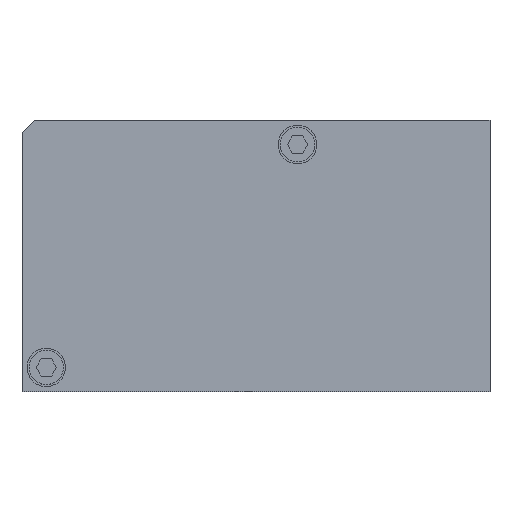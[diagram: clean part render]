
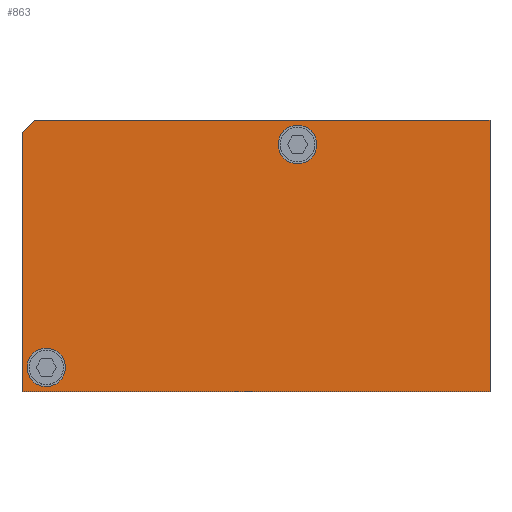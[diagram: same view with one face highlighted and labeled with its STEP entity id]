
A CAD part, top view. The second image highlights one B-rep face of the part: STEP entity #863.
In plain terms, the highlighted planar face has unit normal (0, 0, 1).
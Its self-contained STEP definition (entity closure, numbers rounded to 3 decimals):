
#119=DIRECTION('',(1.,0.,0.));
#120=VECTOR('',#119,115.5);
#121=CARTESIAN_POINT('',(-57.75,-33.5,12.5));
#122=LINE('',#121,#120);
#123=DIRECTION('',(0.,-1.,0.));
#124=VECTOR('',#123,64.);
#125=CARTESIAN_POINT('',(-57.75,30.5,12.5));
#126=LINE('',#125,#124);
#127=DIRECTION('',(-0.707,-0.707,0.));
#128=VECTOR('',#127,4.243);
#129=CARTESIAN_POINT('',(-54.75,33.5,12.5));
#130=LINE('',#129,#128);
#131=DIRECTION('',(-1.,0.,0.));
#132=VECTOR('',#131,112.5);
#133=CARTESIAN_POINT('',(57.75,33.5,12.5));
#134=LINE('',#133,#132);
#135=DIRECTION('',(0.,1.,0.));
#136=VECTOR('',#135,67.);
#137=CARTESIAN_POINT('',(57.75,-33.5,12.5));
#138=LINE('',#137,#136);
#139=CARTESIAN_POINT('',(-51.75,-27.5,12.5));
#140=DIRECTION('',(0.,0.,1.));
#141=DIRECTION('',(1.,0.,0.));
#142=AXIS2_PLACEMENT_3D('',#139,#140,#141);
#144=CARTESIAN_POINT('',(-51.75,-27.5,12.5));
#145=DIRECTION('',(0.,0.,1.));
#146=DIRECTION('',(-1.,0.,0.));
#147=AXIS2_PLACEMENT_3D('',#144,#145,#146);
#149=CARTESIAN_POINT('',(10.25,27.5,12.5));
#150=DIRECTION('',(0.,0.,1.));
#151=DIRECTION('',(1.,0.,0.));
#152=AXIS2_PLACEMENT_3D('',#149,#150,#151);
#154=CARTESIAN_POINT('',(10.25,27.5,12.5));
#155=DIRECTION('',(0.,0.,1.));
#156=DIRECTION('',(-1.,0.,0.));
#157=AXIS2_PLACEMENT_3D('',#154,#155,#156);
#567=CARTESIAN_POINT('',(-57.75,-33.5,12.5));
#568=CARTESIAN_POINT('',(57.75,-33.5,12.5));
#569=VERTEX_POINT('',#567);
#570=VERTEX_POINT('',#568);
#571=CARTESIAN_POINT('',(57.75,33.5,12.5));
#572=VERTEX_POINT('',#571);
#573=CARTESIAN_POINT('',(-54.75,33.5,12.5));
#574=VERTEX_POINT('',#573);
#575=CARTESIAN_POINT('',(-57.75,30.5,12.5));
#576=VERTEX_POINT('',#575);
#585=CARTESIAN_POINT('',(-47.,-27.5,12.5));
#586=CARTESIAN_POINT('',(-56.5,-27.5,12.5));
#587=VERTEX_POINT('',#585);
#588=VERTEX_POINT('',#586);
#589=CARTESIAN_POINT('',(15.,27.5,12.5));
#590=CARTESIAN_POINT('',(5.5,27.5,12.5));
#591=VERTEX_POINT('',#589);
#592=VERTEX_POINT('',#590);
#839=CARTESIAN_POINT('',(0.,0.,12.5));
#840=DIRECTION('',(0.,0.,1.));
#841=DIRECTION('',(1.,0.,0.));
#842=AXIS2_PLACEMENT_3D('',#839,#840,#841);
#843=PLANE('',#842);
#844=ORIENTED_EDGE('',*,*,#777,.F.);
#845=ORIENTED_EDGE('',*,*,#792,.F.);
#846=ORIENTED_EDGE('',*,*,#806,.F.);
#847=ORIENTED_EDGE('',*,*,#820,.F.);
#848=ORIENTED_EDGE('',*,*,#833,.F.);
#849=EDGE_LOOP('',(#844,#845,#846,#847,#848));
#850=FACE_OUTER_BOUND('',#849,.F.);
#852=ORIENTED_EDGE('',*,*,#851,.T.);
#854=ORIENTED_EDGE('',*,*,#853,.T.);
#855=EDGE_LOOP('',(#852,#854));
#856=FACE_BOUND('',#855,.F.);
#858=ORIENTED_EDGE('',*,*,#857,.T.);
#860=ORIENTED_EDGE('',*,*,#859,.T.);
#861=EDGE_LOOP('',(#858,#860));
#862=FACE_BOUND('',#861,.F.);
#863=ADVANCED_FACE('',(#850,#856,#862),#843,.T.);
#143=CIRCLE('',#142,4.75);
#148=CIRCLE('',#147,4.75);
#153=CIRCLE('',#152,4.75);
#158=CIRCLE('',#157,4.75);
#777=EDGE_CURVE('',#569,#570,#122,.T.);
#792=EDGE_CURVE('',#576,#569,#126,.T.);
#806=EDGE_CURVE('',#574,#576,#130,.T.);
#820=EDGE_CURVE('',#572,#574,#134,.T.);
#833=EDGE_CURVE('',#570,#572,#138,.T.);
#851=EDGE_CURVE('',#587,#588,#143,.T.);
#853=EDGE_CURVE('',#588,#587,#148,.T.);
#857=EDGE_CURVE('',#591,#592,#153,.T.);
#859=EDGE_CURVE('',#592,#591,#158,.T.);
